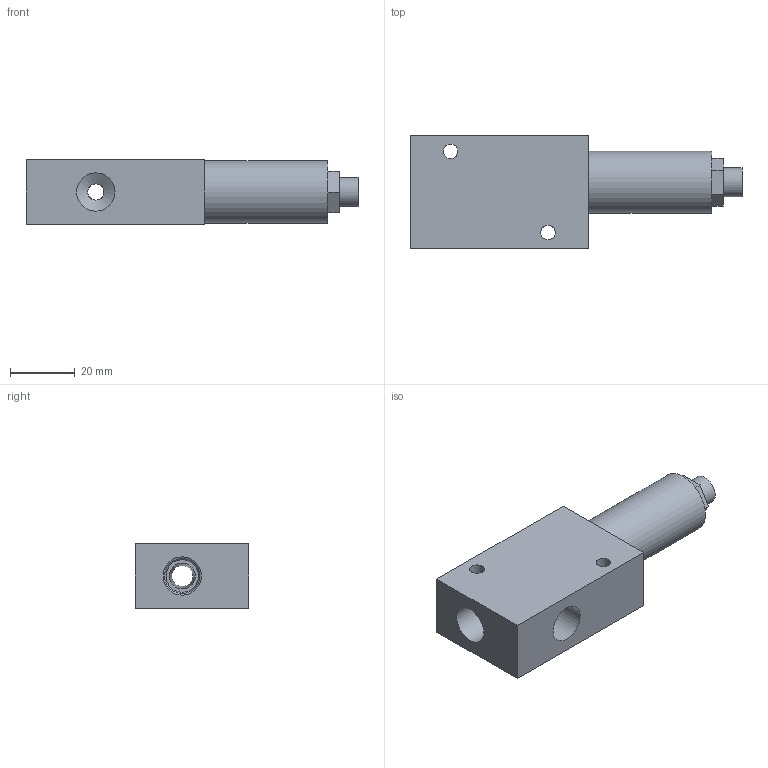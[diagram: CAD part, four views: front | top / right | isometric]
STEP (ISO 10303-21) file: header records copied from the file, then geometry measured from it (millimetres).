
FILE_DESCRIPTION (( 'STEP AP214' ), '1' );
FILE_NAME ('SSV-110-2.STEP', '2025-09-15T17:38:41', ( '' ), ( '' ), 'SwSTEP 2.0', 'SolidWorks 2025', '' );
FILE_SCHEMA (( 'AUTOMOTIVE_DESIGN' ));
Length unit declared in the file: inch
Products named in the file (3): SSV-100; GS-ST14; SSV-110-2
Assembly tree (2 placements, depth 2):
  SSV-110-2
    SSV-100
    GS-ST14
Bounding box: 102.2 x 35 x 20 mm (x, y, z)
Volume: 41270.7 mm3; surface area: 14914 mm2
Topology: 2 solids, 2 shells, 38 faces, 92 edges, 61 vertices
Faces by surface type: plane 18, cylinder 13, cone 7
Full cylindrical faces by diameter (mm): 4.5 x2, 5 x2, 8 x1, 8.95 x1, 9.093 x1, 10 x1, 11.8 x3, 12.6 x1, 19.1 x1
Entity records: 1164 total; most frequent: CARTESIAN_POINT 272, DIRECTION 172, ORIENTED_EDGE 126, EDGE_LOOP 74, AXIS2_PLACEMENT_3D 71, EDGE_CURVE 63, VERTEX_POINT 53, FACE_OUTER_BOUND 51
